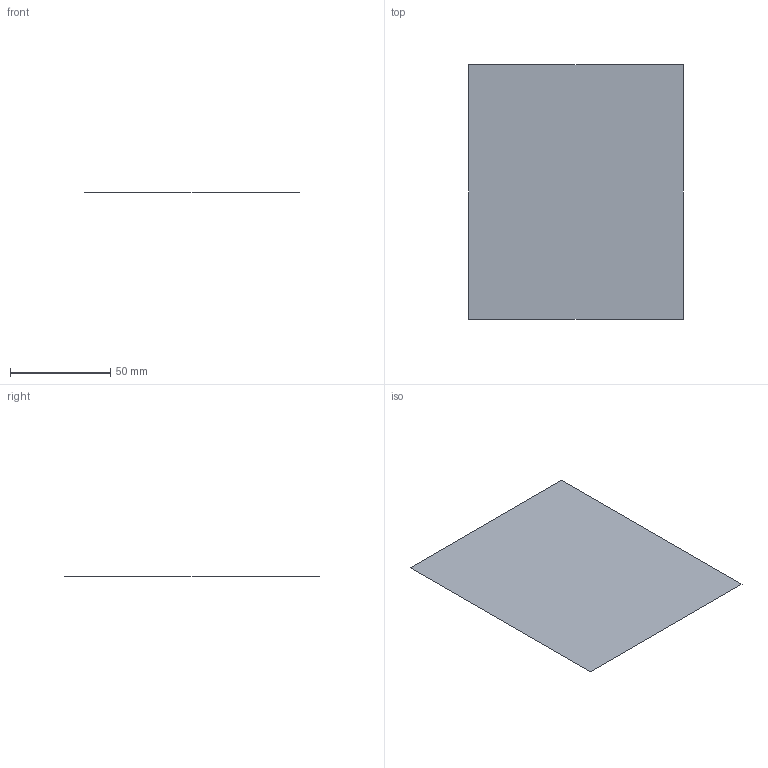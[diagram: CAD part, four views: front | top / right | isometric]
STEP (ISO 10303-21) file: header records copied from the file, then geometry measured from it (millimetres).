
FILE_DESCRIPTION(('CATIA V5 STEP Exchange'),'2;1');
FILE_NAME('C:\_Andres\UNIVERSIDAD\IQS\ASIGNATURAS\DAO\EXF\EXF-15161c\1original\Pañella_Caminero_Ej06-calculo_v17.stp','2016-03-04T20:57:43+00:00',('none'),('none'),'CATIA Version 5 Release 20 SP 1 (IN-10)','CATIA V5 STEP AP203','none');
FILE_SCHEMA(('CONFIG_CONTROL_DESIGN'));
Length unit declared in the file: millimetre
Products named in the file (1): Pañella_Caminero_Ej06-calculo_v17
Bounding box: 107 x 127 x 0 mm (x, y, z)
Surface area: 13589 mm2 (no closed solid volume)
Topology: 0 solids, 1 shells, 1 faces, 8 edges, 9 vertices
Faces by surface type: plane 1
Entity records: 130 total; most frequent: CARTESIAN_POINT 23, DIRECTION 12, VECTOR 8, LINE 8, COMPOSITE_CURVE_SEGMENT 4, ORIENTED_EDGE 4, CC_DESIGN_PERSON_AND_ORGANIZATION_ASSIGNMENT 4, PERSON_AND_ORGANIZATION_ROLE 4
